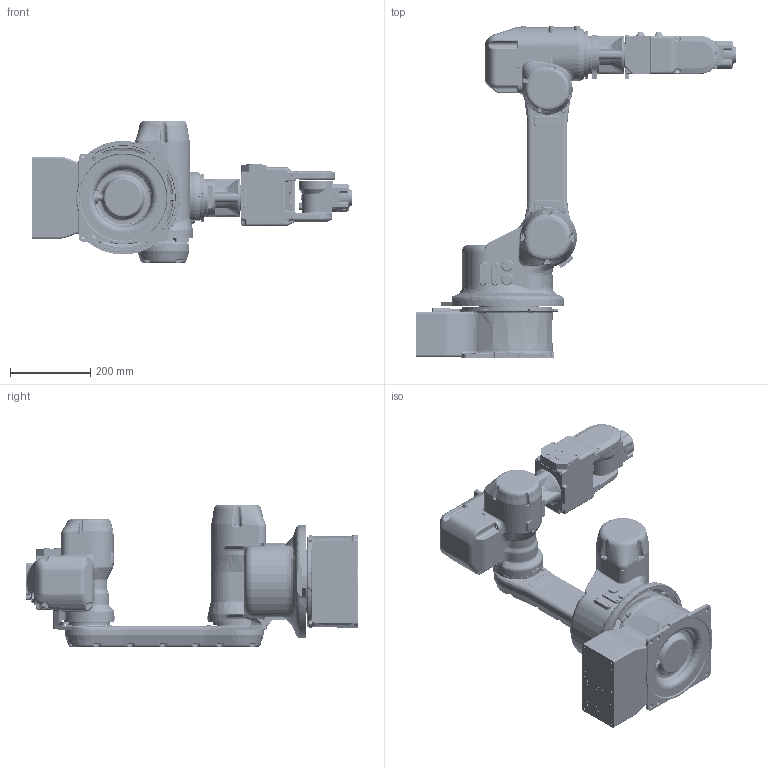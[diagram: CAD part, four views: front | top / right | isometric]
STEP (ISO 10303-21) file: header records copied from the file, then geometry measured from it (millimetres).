
FILE_DESCRIPTION(/* description */ ('3 kg'),/* implementation_level */ '2;1');
FILE_NAME(/* name */ 'HP3L.stp',/* time_stamp */ '2024-03-07T08:36:21+02:00',/* author */ ('KulmalaYNR'),/* organization */ ('Motoman Robotics Europe AB'),/* preprocessor_version */ 'ST-DEVELOPER v19.2',/* originating_system */ 'Autodesk Inventor 2023',/* authorisation */ '');
FILE_SCHEMA (('AUTOMOTIVE_DESIGN { 1 0 10303 214 3 1 1 }'));
Products named in the file (8): HP3L; Base; S-axel; L-axel; U-axel; R-axel; B-axel; T-axel
Assembly tree (7 placements, depth 2):
  HP3L
    Base
    S-axel
    L-axel
    U-axel
    R-axel
    B-axel
    T-axel
Bounding box: 799.21 x 827 x 355.7 mm (x, y, z)
Volume: 9088454.4 mm3; surface area: 2212604 mm2
Topology: 15 solids, 24 shells, 5843 faces, 14170 edges, 8445 vertices
Faces by surface type: cylinder 1888, bspline 1656, plane 1121, torus 665, cone 369, sphere 144
Full cylindrical faces by diameter (mm): 2.5 x33, 3.3 x133, 3.4 x6, 3.5 x4, 4 x2, 4.2 x75, 4.5 x43, 4.7 x1, 5 x50, 5.5 x29, 6 x4, 6.6 x7, 6.8 x3, 7 x6, 8 x5, 8.66 x1, 10 x1, 11 x4, 12 x8, 13 x2, 14 x1, 15 x2, 16 x2, 18 x1, 19 x1, 20 x1, 21 x2, 22 x1, 24 x1, 25 x2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
Entity records: 371401 total; most frequent: CARTESIAN_POINT 243875, ORIENTED_EDGE 27828, DIRECTION 25261, EDGE_CURVE 13914, AXIS2_PLACEMENT_3D 10547, VERTEX_POINT 8444, EDGE_LOOP 6490, CIRCLE 6335
